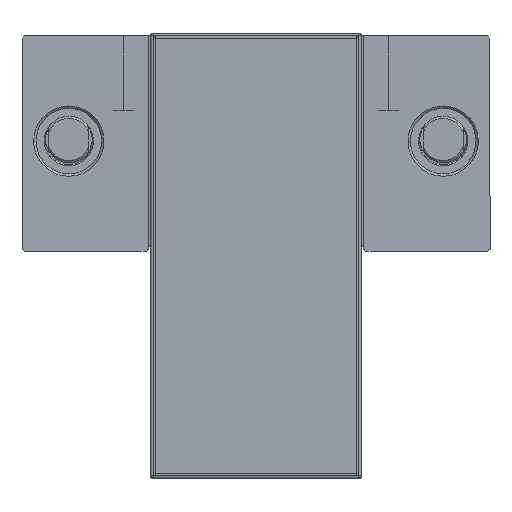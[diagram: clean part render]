
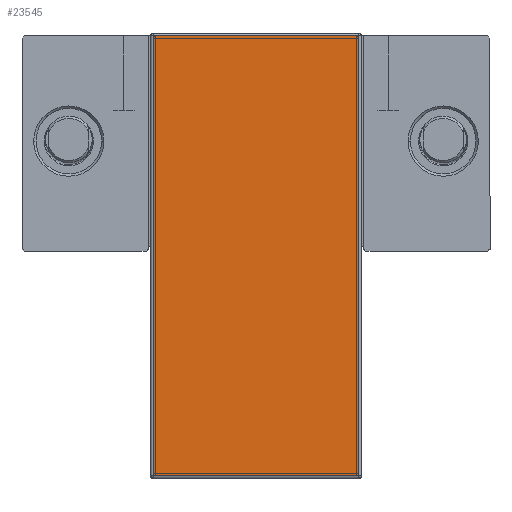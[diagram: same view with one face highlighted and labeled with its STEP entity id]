
A CAD part, top view. The second image highlights one B-rep face of the part: STEP entity #23545.
In plain terms, the highlighted planar face has unit normal (0, 0, 1).
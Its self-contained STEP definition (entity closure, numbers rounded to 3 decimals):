
#186 = CARTESIAN_POINT ( 'NONE',  ( -44., 44., 571. ) ) ;
#254 = DIRECTION ( 'NONE',  ( 1., 0., 0. ) ) ;
#1904 = EDGE_CURVE ( 'NONE', #31974, #23748, #32752, .T. ) ;
#2621 = CARTESIAN_POINT ( 'NONE',  ( -44., -144., 571. ) ) ;
#6123 = CARTESIAN_POINT ( 'NONE',  ( -44., -144., 571. ) ) ;
#6128 = ORIENTED_EDGE ( 'NONE', *, *, #18057, .T. ) ;
#6801 = DIRECTION ( 'NONE',  ( 0., -1., 0. ) ) ;
#9038 = EDGE_LOOP ( 'NONE', ( #16181, #26299, #15174, #6128 ) ) ;
#11376 = VECTOR ( 'NONE', #24927, 1000. ) ;
#11780 = CARTESIAN_POINT ( 'NONE',  ( 44., 44., 571. ) ) ;
#12307 = LINE ( 'NONE', #36735, #11376 ) ;
#13704 = FACE_OUTER_BOUND ( 'NONE', #9038, .T. ) ;
#13707 = VERTEX_POINT ( 'NONE', #2621 ) ;
#15174 = ORIENTED_EDGE ( 'NONE', *, *, #1904, .T. ) ;
#15618 = CARTESIAN_POINT ( 'NONE',  ( -44., -144., 571. ) ) ;
#16181 = ORIENTED_EDGE ( 'NONE', *, *, #33097, .T. ) ;
#18029 = DIRECTION ( 'NONE',  ( 0., 0., 1. ) ) ;
#18057 = EDGE_CURVE ( 'NONE', #23748, #37157, #22469, .T. ) ;
#22469 = LINE ( 'NONE', #186, #30332 ) ;
#23082 = VECTOR ( 'NONE', #6801, 1000. ) ;
#23545 = ADVANCED_FACE ( 'NONE', ( #13704 ), #23887, .T. ) ;
#23748 = VERTEX_POINT ( 'NONE', #33841 ) ;
#23887 = PLANE ( 'NONE',  #28926 ) ;
#24458 = EDGE_CURVE ( 'NONE', #13707, #31974, #12307, .T. ) ;
#24927 = DIRECTION ( 'NONE',  ( 1., 0., 0. ) ) ;
#25133 = CARTESIAN_POINT ( 'NONE',  ( -44., 44., 571. ) ) ;
#26299 = ORIENTED_EDGE ( 'NONE', *, *, #24458, .T. ) ;
#26801 = DIRECTION ( 'NONE',  ( -1., 0., 0. ) ) ;
#28926 = AXIS2_PLACEMENT_3D ( 'NONE', #6123, #18029, #254 ) ;
#29364 = CARTESIAN_POINT ( 'NONE',  ( 44., -144., 571. ) ) ;
#29548 = DIRECTION ( 'NONE',  ( 0., 1., 0. ) ) ;
#30332 = VECTOR ( 'NONE', #26801, 1000. ) ;
#30966 = LINE ( 'NONE', #15618, #23082 ) ;
#31424 = VECTOR ( 'NONE', #29548, 1000. ) ;
#31974 = VERTEX_POINT ( 'NONE', #29364 ) ;
#32752 = LINE ( 'NONE', #11780, #31424 ) ;
#33097 = EDGE_CURVE ( 'NONE', #37157, #13707, #30966, .T. ) ;
#33841 = CARTESIAN_POINT ( 'NONE',  ( 44., 44., 571. ) ) ;
#36735 = CARTESIAN_POINT ( 'NONE',  ( 44., -144., 571. ) ) ;
#37157 = VERTEX_POINT ( 'NONE', #25133 ) ;
